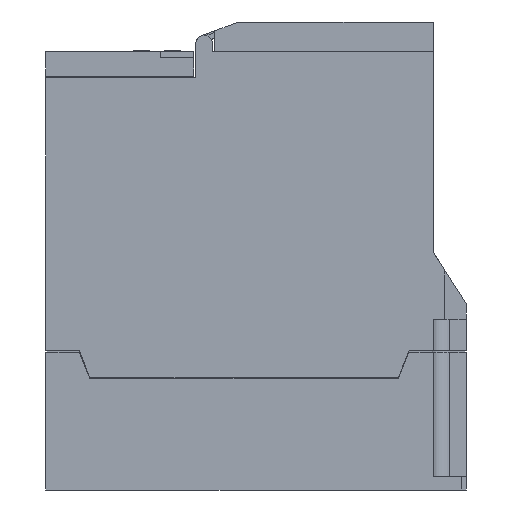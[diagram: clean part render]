
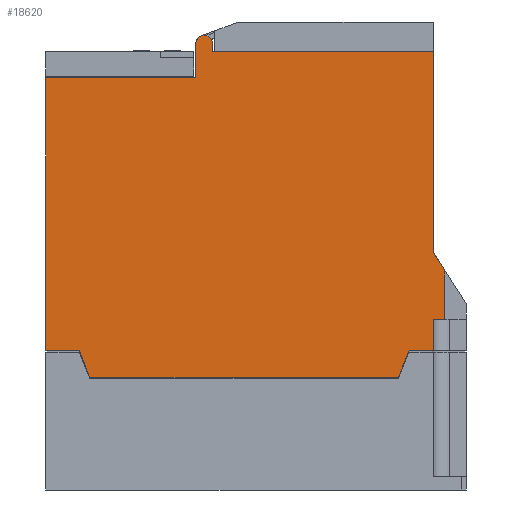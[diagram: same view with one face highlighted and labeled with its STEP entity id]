
A CAD part, left-side view. The second image highlights one B-rep face of the part: STEP entity #18620.
In plain terms, the highlighted planar face has unit normal (-1, 0, 0).
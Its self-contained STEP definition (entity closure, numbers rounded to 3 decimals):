
#1763=DIRECTION('',(0.,-0.362,0.932));
#1764=VECTOR('',#1763,8.796);
#1765=CARTESIAN_POINT('',(-34.,20.589,-7.7));
#1766=LINE('',#1765,#1764);
#4348=DIRECTION('',(0.,-1.,0.));
#4349=VECTOR('',#4348,3.4);
#4350=CARTESIAN_POINT('',(-34.,10.,10.));
#4351=LINE('',#4350,#4349);
#4380=DIRECTION('',(0.,0.,-1.));
#4381=VECTOR('',#4380,14.994);
#4382=CARTESIAN_POINT('',(-34.,6.6,24.994));
#4383=LINE('',#4382,#4381);
#4416=DIRECTION('',(0.,-1.,0.));
#4417=VECTOR('',#4416,10.206);
#4418=CARTESIAN_POINT('',(-34.,128.,0.5));
#4419=LINE('',#4418,#4417);
#4420=DIRECTION('',(0.,0.,1.));
#4421=VECTOR('',#4420,83.);
#4422=CARTESIAN_POINT('',(-34.,128.,0.5));
#4423=LINE('',#4422,#4421);
#4424=DIRECTION('',(0.,-0.017,1.));
#4425=VECTOR('',#4424,10.545);
#4426=CARTESIAN_POINT('',(-34.,82.484,83.5));
#4427=LINE('',#4426,#4425);
#4428=CARTESIAN_POINT('',(-34.,79.8,94.));
#4429=DIRECTION('',(1.,0.,0.));
#4430=DIRECTION('',(0.,1.,0.017));
#4431=AXIS2_PLACEMENT_3D('',#4428,#4429,#4430);
#4433=DIRECTION('',(0.,-0.017,-1.));
#4434=VECTOR('',#4433,2.544);
#4435=CARTESIAN_POINT('',(-34.,77.3,94.044));
#4436=LINE('',#4435,#4434);
#4437=DIRECTION('',(0.,0.,-1.));
#4438=VECTOR('',#4437,61.224);
#4439=CARTESIAN_POINT('',(-34.,10.,91.5));
#4440=LINE('',#4439,#4438);
#4441=DIRECTION('',(0.,-0.541,-0.841));
#4442=VECTOR('',#4441,6.281);
#4443=CARTESIAN_POINT('',(-34.,10.,30.276));
#4444=LINE('',#4443,#4442);
#4445=DIRECTION('',(0.,1.,0.));
#4446=VECTOR('',#4445,7.406);
#4447=CARTESIAN_POINT('',(-34.,10.,0.5));
#4448=LINE('',#4447,#4446);
#4465=DIRECTION('',(0.,-0.362,-0.932));
#4466=VECTOR('',#4465,8.796);
#4467=CARTESIAN_POINT('',(-34.,117.794,0.5));
#4468=LINE('',#4467,#4466);
#5058=DIRECTION('',(0.,-1.,0.));
#5059=VECTOR('',#5058,45.516);
#5060=CARTESIAN_POINT('',(-34.,128.,83.5));
#5061=LINE('',#5060,#5059);
#5958=DIRECTION('',(0.,-1.,0.));
#5959=VECTOR('',#5958,67.256);
#5960=CARTESIAN_POINT('',(-34.,77.256,91.5));
#5961=LINE('',#5960,#5959);
#6106=DIRECTION('',(0.,0.,1.));
#6107=VECTOR('',#6106,9.5);
#6108=CARTESIAN_POINT('',(-34.,10.,0.5));
#6109=LINE('',#6108,#6107);
#6178=DIRECTION('',(0.,-1.,0.));
#6179=VECTOR('',#6178,94.021);
#6180=CARTESIAN_POINT('',(-34.,114.611,-7.7));
#6181=LINE('',#6180,#6179);
#8737=CARTESIAN_POINT('',(-34.,114.611,-7.7));
#8738=CARTESIAN_POINT('',(-34.,20.589,-7.7));
#8739=VERTEX_POINT('',#8737);
#8740=VERTEX_POINT('',#8738);
#8819=CARTESIAN_POINT('',(-34.,128.,83.5));
#8820=VERTEX_POINT('',#8819);
#8823=CARTESIAN_POINT('',(-34.,10.,91.5));
#8825=VERTEX_POINT('',#8823);
#8831=CARTESIAN_POINT('',(-34.,82.3,94.044));
#8832=CARTESIAN_POINT('',(-34.,77.3,94.044));
#8833=VERTEX_POINT('',#8831);
#8834=VERTEX_POINT('',#8832);
#8839=CARTESIAN_POINT('',(-34.,77.256,91.5));
#8840=VERTEX_POINT('',#8839);
#9074=CARTESIAN_POINT('',(-34.,128.,0.5));
#9076=VERTEX_POINT('',#9074);
#9161=CARTESIAN_POINT('',(-34.,117.794,0.5));
#9163=VERTEX_POINT('',#9161);
#9166=CARTESIAN_POINT('',(-34.,17.406,0.5));
#9168=VERTEX_POINT('',#9166);
#9173=CARTESIAN_POINT('',(-34.,10.,0.5));
#9174=VERTEX_POINT('',#9173);
#9233=CARTESIAN_POINT('',(-34.,82.484,83.5));
#9234=VERTEX_POINT('',#9233);
#9353=CARTESIAN_POINT('',(-34.,6.6,10.));
#9355=VERTEX_POINT('',#9353);
#9361=CARTESIAN_POINT('',(-34.,10.,10.));
#9362=VERTEX_POINT('',#9361);
#9365=CARTESIAN_POINT('',(-34.,10.,30.276));
#9366=CARTESIAN_POINT('',(-34.,6.6,24.994));
#9367=VERTEX_POINT('',#9365);
#9368=VERTEX_POINT('',#9366);
#18586=CARTESIAN_POINT('',(-34.,128.,-7.7));
#18587=DIRECTION('',(-1.,0.,0.));
#18588=DIRECTION('',(0.,-1.,0.));
#18589=AXIS2_PLACEMENT_3D('',#18586,#18587,#18588);
#18590=PLANE('',#18589);
#18592=ORIENTED_EDGE('',*,*,#18591,.F.);
#18594=ORIENTED_EDGE('',*,*,#18593,.F.);
#18596=ORIENTED_EDGE('',*,*,#18595,.T.);
#18598=ORIENTED_EDGE('',*,*,#18597,.T.);
#18600=ORIENTED_EDGE('',*,*,#18599,.T.);
#18602=ORIENTED_EDGE('',*,*,#18601,.T.);
#18604=ORIENTED_EDGE('',*,*,#18603,.T.);
#18606=ORIENTED_EDGE('',*,*,#18605,.T.);
#18608=ORIENTED_EDGE('',*,*,#18607,.T.);
#18609=ORIENTED_EDGE('',*,*,#18547,.T.);
#18610=ORIENTED_EDGE('',*,*,#18504,.T.);
#18611=ORIENTED_EDGE('',*,*,#18437,.F.);
#18613=ORIENTED_EDGE('',*,*,#18612,.F.);
#18614=ORIENTED_EDGE('',*,*,#12989,.T.);
#18615=ORIENTED_EDGE('',*,*,#13090,.F.);
#18617=ORIENTED_EDGE('',*,*,#18616,.F.);
#18618=EDGE_LOOP('',(#18592,#18594,#18596,#18598,#18600,#18602,#18604,#18606,
#18608,#18609,#18610,#18611,#18613,#18614,#18615,#18617));
#18619=FACE_OUTER_BOUND('',#18618,.F.);
#18620=ADVANCED_FACE('',(#18619),#18590,.T.);
#4432=CIRCLE('',#4431,2.5);
#12989=EDGE_CURVE('',#9174,#9168,#4448,.T.);
#13090=EDGE_CURVE('',#8740,#9168,#1766,.T.);
#18437=EDGE_CURVE('',#9362,#9355,#4351,.T.);
#18504=EDGE_CURVE('',#9368,#9355,#4383,.T.);
#18547=EDGE_CURVE('',#9367,#9368,#4444,.T.);
#18591=EDGE_CURVE('',#9163,#8739,#4468,.T.);
#18593=EDGE_CURVE('',#9076,#9163,#4419,.T.);
#18595=EDGE_CURVE('',#9076,#8820,#4423,.T.);
#18597=EDGE_CURVE('',#8820,#9234,#5061,.T.);
#18599=EDGE_CURVE('',#9234,#8833,#4427,.T.);
#18601=EDGE_CURVE('',#8833,#8834,#4432,.T.);
#18603=EDGE_CURVE('',#8834,#8840,#4436,.T.);
#18605=EDGE_CURVE('',#8840,#8825,#5961,.T.);
#18607=EDGE_CURVE('',#8825,#9367,#4440,.T.);
#18612=EDGE_CURVE('',#9174,#9362,#6109,.T.);
#18616=EDGE_CURVE('',#8739,#8740,#6181,.T.);
